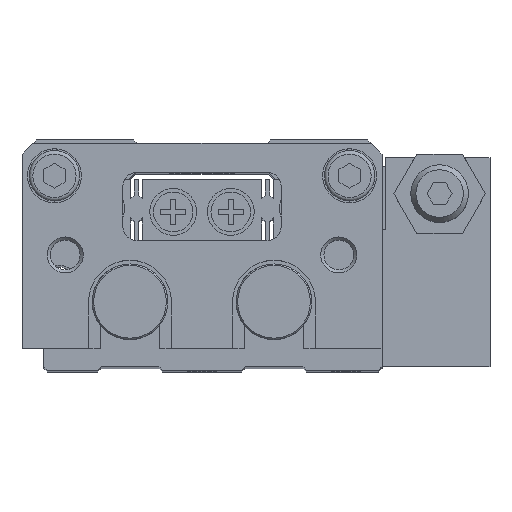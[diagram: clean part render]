
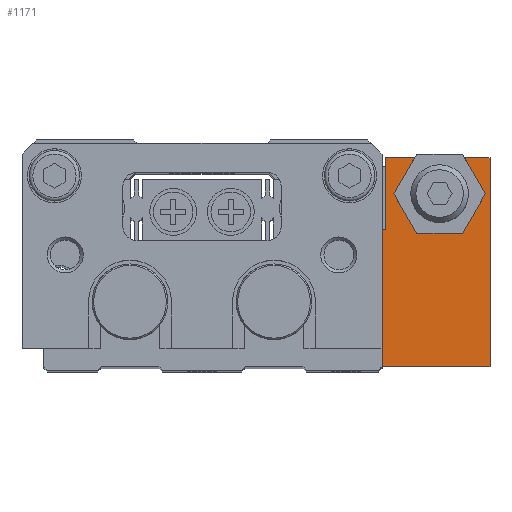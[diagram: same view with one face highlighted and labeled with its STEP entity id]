
A CAD part, top view. The second image highlights one B-rep face of the part: STEP entity #1171.
In plain terms, the highlighted planar face has unit normal (0, 0, 1) as drawn and (0, 0, -1) by its records, which use the part's own axes.
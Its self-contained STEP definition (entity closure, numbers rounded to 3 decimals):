
#1171 = ADVANCED_FACE( '', ( #2641 ), #2642, .F. );
#2641 = FACE_OUTER_BOUND( '', #4412, .T. );
#2642 = PLANE( '', #4413 );
#4412 = EDGE_LOOP( '', ( #7495, #7496, #7497, #7498, #7499, #7500, #7501, #7502, #7503, #7504, #7505, #7506 ) );
#4413 = AXIS2_PLACEMENT_3D( '', #7507, #7508, #7509 );
#7495 = ORIENTED_EDGE( '', *, *, #9477, .T. );
#7496 = ORIENTED_EDGE( '', *, *, #10601, .T. );
#7497 = ORIENTED_EDGE( '', *, *, #10062, .F. );
#7498 = ORIENTED_EDGE( '', *, *, #10602, .F. );
#7499 = ORIENTED_EDGE( '', *, *, #10603, .F. );
#7500 = ORIENTED_EDGE( '', *, *, #10604, .F. );
#7501 = ORIENTED_EDGE( '', *, *, #10098, .F. );
#7502 = ORIENTED_EDGE( '', *, *, #10524, .F. );
#7503 = ORIENTED_EDGE( '', *, *, #10064, .F. );
#7504 = ORIENTED_EDGE( '', *, *, #10605, .T. );
#7505 = ORIENTED_EDGE( '', *, *, #10560, .T. );
#7506 = ORIENTED_EDGE( '', *, *, #10504, .T. );
#7507 = CARTESIAN_POINT( '', ( 0., 0., -4.75 ) );
#7508 = DIRECTION( '', ( 0., 0., 1. ) );
#7509 = DIRECTION( '', ( 1., 0., 0. ) );
#9477 = EDGE_CURVE( '', #11119, #11120, #11121, .T. );
#10062 = EDGE_CURVE( '', #12116, #12117, #12118, .T. );
#10064 = EDGE_CURVE( '', #12119, #12121, #12122, .T. );
#10098 = EDGE_CURVE( '', #12175, #12176, #12177, .T. );
#10504 = EDGE_CURVE( '', #12784, #11119, #12785, .T. );
#10524 = EDGE_CURVE( '', #12121, #12175, #12813, .T. );
#10560 = EDGE_CURVE( '', #12864, #12784, #12865, .T. );
#10601 = EDGE_CURVE( '', #11120, #12117, #12925, .T. );
#10602 = EDGE_CURVE( '', #12926, #12116, #12927, .T. );
#10603 = EDGE_CURVE( '', #12928, #12926, #12929, .T. );
#10604 = EDGE_CURVE( '', #12176, #12928, #12930, .T. );
#10605 = EDGE_CURVE( '', #12119, #12864, #12931, .T. );
#11119 = VERTEX_POINT( '', #13557 );
#11120 = VERTEX_POINT( '', #13558 );
#11121 = LINE( '', #13559, #13560 );
#12116 = VERTEX_POINT( '', #14901 );
#12117 = VERTEX_POINT( '', #14902 );
#12118 = LINE( '', #14903, #14904 );
#12119 = VERTEX_POINT( '', #14905 );
#12121 = VERTEX_POINT( '', #14908 );
#12122 = LINE( '', #14909, #14910 );
#12175 = VERTEX_POINT( '', #14984 );
#12176 = VERTEX_POINT( '', #14985 );
#12177 = LINE( '', #14986, #14987 );
#12784 = VERTEX_POINT( '', #15822 );
#12785 = LINE( '', #15823, #15824 );
#12813 = LINE( '', #15861, #15862 );
#12864 = VERTEX_POINT( '', #15932 );
#12865 = LINE( '', #15933, #15934 );
#12925 = LINE( '', #16018, #16019 );
#12926 = VERTEX_POINT( '', #16020 );
#12927 = LINE( '', #16021, #16022 );
#12928 = VERTEX_POINT( '', #16023 );
#12929 = LINE( '', #16024, #16025 );
#12930 = LINE( '', #16026, #16027 );
#12931 = LINE( '', #16028, #16029 );
#13557 = CARTESIAN_POINT( '', ( -10.175, 10.5, -4.75 ) );
#13558 = CARTESIAN_POINT( '', ( -13.351, 5., -4.75 ) );
#13559 = CARTESIAN_POINT( '', ( -10.175, 10.5, -4.75 ) );
#13560 = VECTOR( '', #16802, 1000. );
#14901 = CARTESIAN_POINT( '', ( -14.5, 0., -4.75 ) );
#14902 = CARTESIAN_POINT( '', ( -10.464, 0., -4.75 ) );
#14903 = CARTESIAN_POINT( '', ( -14.5, 0., -4.75 ) );
#14904 = VECTOR( '', #17482, 1000. );
#14905 = CARTESIAN_POINT( '', ( -3.536, 0., -4.75 ) );
#14908 = CARTESIAN_POINT( '', ( 0., 0., -4.75 ) );
#14909 = CARTESIAN_POINT( '', ( -14.5, 0., -4.75 ) );
#14910 = VECTOR( '', #17484, 1000. );
#14984 = CARTESIAN_POINT( '', ( 0., 29., -4.75 ) );
#14985 = CARTESIAN_POINT( '', ( -16., 29., -4.75 ) );
#14986 = CARTESIAN_POINT( '', ( 0., 29., -4.75 ) );
#14987 = VECTOR( '', #17515, 1000. );
#15822 = CARTESIAN_POINT( '', ( -3.825, 10.5, -4.75 ) );
#15823 = CARTESIAN_POINT( '', ( -3.825, 10.5, -4.75 ) );
#15824 = VECTOR( '', #17927, 1000. );
#15861 = CARTESIAN_POINT( '', ( 0., 0., -4.75 ) );
#15862 = VECTOR( '', #17949, 1000. );
#15932 = CARTESIAN_POINT( '', ( -0.649, 5., -4.75 ) );
#15933 = CARTESIAN_POINT( '', ( -0.649, 5., -4.75 ) );
#15934 = VECTOR( '', #17987, 1000. );
#16018 = CARTESIAN_POINT( '', ( -13.351, 5., -4.75 ) );
#16019 = VECTOR( '', #18033, 1000. );
#16020 = CARTESIAN_POINT( '', ( -14.5, 10., -4.75 ) );
#16021 = CARTESIAN_POINT( '', ( -14.5, 10., -4.75 ) );
#16022 = VECTOR( '', #18034, 1000. );
#16023 = CARTESIAN_POINT( '', ( -16., 10., -4.75 ) );
#16024 = CARTESIAN_POINT( '', ( -16., 10., -4.75 ) );
#16025 = VECTOR( '', #18035, 1000. );
#16026 = CARTESIAN_POINT( '', ( -16., 29., -4.75 ) );
#16027 = VECTOR( '', #18036, 1000. );
#16028 = CARTESIAN_POINT( '', ( -3.825, -0.5, -4.75 ) );
#16029 = VECTOR( '', #18037, 1000. );
#16802 = DIRECTION( '', ( -0.5, -0.866, 0. ) );
#17482 = DIRECTION( '', ( 1., 0., 0. ) );
#17484 = DIRECTION( '', ( 1., 0., 0. ) );
#17515 = DIRECTION( '', ( -1., 0., 0. ) );
#17927 = DIRECTION( '', ( -1., 0., 0. ) );
#17949 = DIRECTION( '', ( 0., 1., 0. ) );
#17987 = DIRECTION( '', ( -0.5, 0.866, 0. ) );
#18033 = DIRECTION( '', ( 0.5, -0.866, 0. ) );
#18034 = DIRECTION( '', ( 0., -1., 0. ) );
#18035 = DIRECTION( '', ( 1., 0., 0. ) );
#18036 = DIRECTION( '', ( 0., -1., 0. ) );
#18037 = DIRECTION( '', ( 0.5, 0.866, 0. ) );
